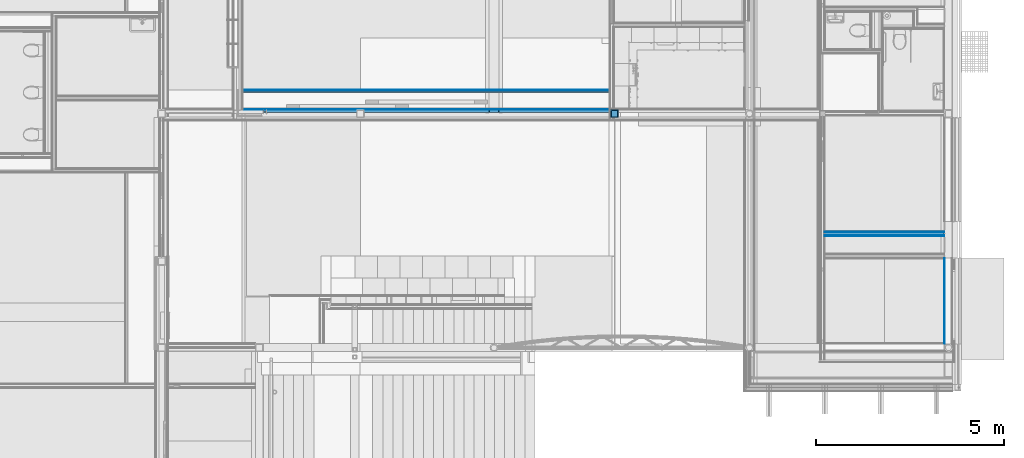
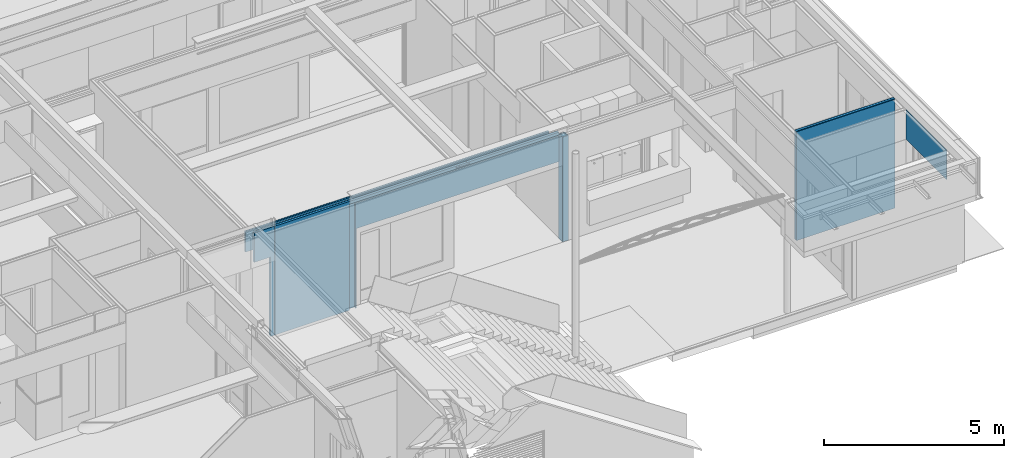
# One storey, part 67 of 165: 11 building element parts, 2 openings, 5 elements without a shape of their own.
"""IFC2X3 building model written with IfcOpenShell, lengths in millimetres."""

from ifc_helpers import new_model, entity, si_unit, converted_unit, derived_unit, money_unit, direction, frame, origin_with_axes, place, context, subcontext, project, spatial, faceted_brep, material, type_object, element, aggregate, save


model = new_model("IFC2X3")

# Units and contexts
model_context = context("Model", 3, precision=0.01, world=origin_with_axes(), true_north=direction((0.0, 1.0)))
body_context = subcontext(model_context, "Body", "Model", "MODEL_VIEW")
ifc_project = project(units=[si_unit("LENGTHUNIT", "METRE", prefix="MILLI"), si_unit("AREAUNIT", "SQUARE_METRE"), si_unit("VOLUMEUNIT", "CUBIC_METRE"), converted_unit("PLANEANGLEUNIT", "DEGREE", entity("IfcPlaneAngleMeasure", 0.0174532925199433), si_unit("PLANEANGLEUNIT", "RADIAN"), dimensions=[0, 0, 0, 0, 0, 0, 0]), money_unit("EUR"), converted_unit("TIMEUNIT", "Year", entity("IfcTimeMeasure", 31556926.0), si_unit("TIMEUNIT", "SECOND"), dimensions=[0, 0, 1, 0, 0, 0, 0]), si_unit("MASSUNIT", "GRAM", prefix="KILO"), si_unit("THERMODYNAMICTEMPERATUREUNIT", "DEGREE_CELSIUS"), si_unit("LUMINOUSINTENSITYUNIT", "LUMEN"), si_unit("ENERGYUNIT", "JOULE", prefix="MEGA"), derived_unit("THERMALCONDUCTANCEUNIT", [(si_unit("POWERUNIT", "WATT"), 1), (si_unit("LENGTHUNIT", "METRE"), -1), (si_unit("THERMODYNAMICTEMPERATUREUNIT", "KELVIN"), -1)]), derived_unit("SPECIFICHEATCAPACITYUNIT", [(si_unit("ENERGYUNIT", "JOULE"), 1), (si_unit("MASSUNIT", "GRAM", prefix="KILO"), -1), (si_unit("THERMODYNAMICTEMPERATUREUNIT", "KELVIN"), -1)]), derived_unit("MASSDENSITYUNIT", [(si_unit("MASSUNIT", "GRAM", prefix="KILO"), 1), (si_unit("VOLUMEUNIT", "CUBIC_METRE"), -1)])], contexts=[model_context])

# Site, building, storey
site_placement = place(None, origin_with_axes())
site = spatial("IfcSite", under=ifc_project, at=site_placement, Name="Site", CompositionType="ELEMENT")
building_placement = place(site_placement, origin_with_axes())
building = spatial("IfcBuilding", under=site, at=building_placement, Name="Naam gebouw", CompositionType="ELEMENT")
storey_placement = place(building_placement, origin_with_axes())
storey = spatial("IfcBuildingStorey", under=building, at=storey_placement, Name="Begane grond", CompositionType="ELEMENT", Elevation=0.0)

# Proxy, building element parts
building_element_proxy_type_1 = type_object("IfcBuildingElementProxyType", Name="22 Metal stud 125 gips 125", PredefinedType="NOTDEFINED")
proxy_1_placement = place(storey_placement, frame((26386.00000000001, 7674.998044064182, -100.0), z_axis=(0.0, 0.0, 1.0), x_axis=(1.0, 0.0, 0.0)))
proxy_1 = element("IfcBuildingElementProxy", 1, at=proxy_1_placement, inside=storey, type_object=building_element_proxy_type_1, Name="_Wand-x")
ifc_material_1 = material(Name="Gipsplaat")
building_element_part_1_placement = place(proxy_1_placement, origin_with_axes())
building_element_part_1 = element("IfcBuildingElementPart", 2, at=building_element_part_1_placement, material=ifc_material_1, Name="Gipsplaat", context=body_context, shape_type="Brep", body=[
    faceted_brep([(3299.99999999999, -124.9999999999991, 3695.0), (3299.99999999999, -112.4999999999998, 3695.0), (3299.99999999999, -112.4999999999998, 3700.0), (3299.99999999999, -124.9999999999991, 3700.0), (3214.999995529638, -112.4999999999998, 3695.0), (3214.999995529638, -124.9999999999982, 3695.0), (3214.999995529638, -112.4999999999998, 3683.0), (3299.99999999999, -112.4999999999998, 3683.0), (3299.99999999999, -112.4999999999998, 0.0), (125.0, -112.4999999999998, 0.0), (125.0, -112.4999999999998, 3700.0), (125.0, -125.0, 3700.0), (125.0, -125.0, 0.0), (3299.99999999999, -125.0, 0.0), (3299.99999999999, -124.9999999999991, 3683.0), (3214.999995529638, -124.9999999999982, 3683.0)], [[[0, 1, 2, 3]], [[4, 1, 0, 5]], [[6, 7, 8, 9, 10, 2, 1, 4]], [[3, 2, 10, 11]], [[5, 0, 3, 11, 12, 13, 14, 15]], [[6, 4, 5, 15]], [[14, 7, 6, 15]], [[7, 14, 13, 8]], [[8, 13, 12, 9]], [[12, 11, 10, 9]]]),
])
building_element_part_2_placement = place(proxy_1_placement, origin_with_axes())
building_element_part_2 = element("IfcBuildingElementPart", 3, at=building_element_part_2_placement, material=ifc_material_1, Name="Gipsplaat", context=body_context, shape_type="Brep", body=[
    faceted_brep([(3299.99999999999, -112.4999999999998, 3695.0), (3299.99999999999, -99.99999999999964, 3695.0), (3299.99999999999, -99.99999999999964, 3700.0), (3299.99999999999, -112.4999999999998, 3700.0), (3214.999995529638, -99.99999999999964, 3695.0), (3214.999995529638, -112.4999999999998, 3695.0), (3214.999995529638, -99.99999999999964, 3683.0), (3299.99999999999, -99.99999999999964, 3683.0), (3299.99999999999, -99.99999999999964, 0.0), (125.0, -99.99999999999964, 0.0), (125.0, -99.99999999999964, 3700.0), (125.0, -112.4999999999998, 3700.0), (125.0, -112.4999999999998, 0.0), (3299.99999999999, -112.4999999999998, 0.0), (3299.99999999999, -112.4999999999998, 3683.0), (3214.999995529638, -112.4999999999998, 3683.0)], [[[0, 1, 2, 3]], [[4, 1, 0, 5]], [[6, 7, 8, 9, 10, 2, 1, 4]], [[3, 2, 10, 11]], [[5, 0, 3, 11, 12, 13, 14, 15]], [[6, 4, 5, 15]], [[14, 7, 6, 15]], [[7, 14, 13, 8]], [[8, 13, 12, 9]], [[12, 11, 10, 9]]]),
])
ifc_material_2 = material(Name="ALG - LICHTE SCHEIDINGSWAND")
building_element_part_3_placement = place(proxy_1_placement, origin_with_axes())
building_element_part_3 = element("IfcBuildingElementPart", 4, at=building_element_part_3_placement, material=ifc_material_2, Name="ALG - LICHTE SCHEIDINGSWAND", context=body_context, shape_type="Brep", body=[
    faceted_brep([(3299.99999999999, -99.99999999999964, 3695.0), (3299.99999999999, -24.99999999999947, 3695.0), (3299.99999999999, -24.99999999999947, 3700.0), (3299.99999999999, -99.99999999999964, 3700.0), (3214.999995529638, -24.99999999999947, 3695.0), (3214.999995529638, -99.99999999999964, 3695.0), (3214.999995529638, -24.99999999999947, 3683.0), (3299.99999999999, -24.99999999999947, 3683.0), (3299.99999999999, -24.99999999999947, 0.0), (125.0, -25.00000000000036, 0.0), (125.0, -24.99999999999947, 3700.0), (125.0, -99.99999999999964, 3700.0), (125.0, -99.99999999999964, 0.0), (3299.99999999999, -99.99999999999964, 0.0), (3299.99999999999, -99.99999999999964, 3683.0), (3214.999995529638, -99.99999999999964, 3683.0)], [[[0, 1, 2, 3]], [[4, 1, 0, 5]], [[6, 7, 8, 9, 10, 2, 1, 4]], [[3, 2, 10, 11]], [[5, 0, 3, 11, 12, 13, 14, 15]], [[6, 4, 5, 15]], [[14, 7, 6, 15]], [[7, 14, 13, 8]], [[8, 13, 12, 9]], [[12, 11, 10, 9]]]),
])
building_element_part_4_placement = place(proxy_1_placement, origin_with_axes())
building_element_part_4 = element("IfcBuildingElementPart", 5, at=building_element_part_4_placement, material=ifc_material_1, Name="Gipsplaat", context=body_context, shape_type="Brep", body=[
    faceted_brep([(3299.99999999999, -24.99999999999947, 3695.0), (3299.99999999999, -12.49999999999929, 3695.0), (3299.99999999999, -12.49999999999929, 3700.0), (3299.99999999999, -24.99999999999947, 3700.0), (3214.999995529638, -12.50000000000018, 3695.0), (3214.999995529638, -24.99999999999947, 3695.0), (3214.999995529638, -12.50000000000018, 3683.0), (3299.99999999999, -12.49999999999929, 3683.0), (3299.99999999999, -12.50000000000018, 0.0), (125.0, -12.50000000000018, 0.0), (125.0, -12.50000000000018, 3700.0), (125.0, -24.99999999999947, 3700.0), (125.0, -25.00000000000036, 0.0), (3299.99999999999, -24.99999999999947, 0.0), (3299.99999999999, -24.99999999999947, 3683.0), (3214.999995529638, -24.99999999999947, 3683.0)], [[[0, 1, 2, 3]], [[4, 1, 0, 5]], [[6, 7, 8, 9, 10, 2, 1, 4]], [[3, 2, 10, 11]], [[5, 0, 3, 11, 12, 13, 14, 15]], [[6, 4, 5, 15]], [[14, 7, 6, 15]], [[7, 14, 13, 8]], [[8, 13, 12, 9]], [[12, 11, 10, 9]]]),
])
aggregate(proxy_1, [building_element_part_1, building_element_part_2, building_element_part_3, building_element_part_4])

# Proxy, openings, building element parts
building_element_proxy_type_2 = type_object("IfcBuildingElementProxyType", Name="22 Metal stud 325 325", PredefinedType="NOTDEFINED")
proxy_2_placement = place(storey_placement, frame((10875.00000000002, 10619.9988167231, -100.0), z_axis=(0.0, 0.0, 1.0), x_axis=(1.0, 0.0, 0.0)))
proxy_2 = element("IfcBuildingElementProxy", 6, at=proxy_2_placement, inside=storey, type_object=building_element_proxy_type_2, Name="_Wand-x")
opening_1_placement = place(proxy_2_placement, frame((5025.00189153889, 0.0, 100.0), z_axis=(0.0, 0.0, 1.0), x_axis=(1.0, 0.0, 0.0)))
element("IfcOpeningElement", 7, at=opening_1_placement, cuts=proxy_2, Name="_04.02", context=body_context, shape_type="Brep", body=[
    faceted_brep([(4875.0, 140.0000000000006, -100.0000000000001), (4875.0, 140.0000000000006, 2600.0), (4875.0, -0.9999999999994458, 2600.0), (4875.0, -0.9999999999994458, -100.0000000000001), (4875.0, 325.9999999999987, -100.0000000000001), (4875.0, 325.9999999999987, 2600.0), (-1625.0, 140.0000000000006, 2600.0), (-1625.0, -0.9999999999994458, 2600.0), (-1625.0, 325.9999999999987, 2600.0), (-1625.0, -0.9999999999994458, -100.0000000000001), (-1625.0, 140.0000000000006, -100.0000000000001), (-1625.0, 325.9999999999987, -100.0000000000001)], [[[0, 1, 2, 3]], [[1, 0, 4, 5]], [[6, 7, 2, 1, 5, 8]], [[7, 9, 3, 2]], [[0, 3, 9, 10, 11, 4]], [[5, 4, 11, 8]], [[6, 10, 9, 7]], [[10, 6, 8, 11]]]),
])
opening_2_placement = place(proxy_2_placement, frame((325.0000628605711, 0.0, 100.0), z_axis=(0.0, 0.0, 1.0), x_axis=(1.0, 0.0, 0.0)))
element("IfcOpeningElement", 8, at=opening_2_placement, cuts=proxy_2, Name="_B.04", context=body_context, shape_type="Brep", body=[
    faceted_brep([(314.9999999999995, 125.0, -100.0000000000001), (314.9999999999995, 125.0, 2600.0), (314.9999999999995, -0.9999999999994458, 2600.0), (314.9999999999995, -0.9999999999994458, -100.0000000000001), (314.9999999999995, 326.0000000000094, -100.0000000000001), (314.9999999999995, 326.0000000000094, 2600.0), (-459.9999999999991, 7.566550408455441e-05, 2600.0), (-459.9999999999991, -0.9999999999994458, 2600.0), (-189.169293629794, 326.0000000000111, 2600.0), (-459.9999999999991, -0.9999999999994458, -100.0000000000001), (-459.9999999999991, 7.566550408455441e-05, -100.0000000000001), (-189.1692936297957, 326.0000000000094, -100.0000000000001)], [[[0, 1, 2, 3]], [[1, 0, 4, 5]], [[6, 7, 2, 1, 5, 8]], [[7, 9, 3, 2]], [[0, 3, 9, 10, 11, 4]], [[5, 4, 11, 8]], [[10, 9, 7, 6]], [[8, 11, 10, 6]]]),
])
building_element_part_5_placement = place(proxy_2_placement, origin_with_axes())
building_element_part_5 = element("IfcBuildingElementPart", 9, at=building_element_part_5_placement, material=ifc_material_1, Name="Gipsplaat", context=body_context, shape_type="Brep", body=[
    faceted_brep([(640.0000628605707, 312.5, 2700.0), (122.5000000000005, 312.5, 2700.0), (122.5000000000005, 312.5, 3700.0), (6696.999424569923, 312.5, 3700.0), (6696.999424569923, 312.5, 3640.000029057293), (6689.999424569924, 312.5, 3640.000031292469), (6689.999424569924, 312.5, 3690.000029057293), (6599.999424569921, 312.5, 3690.000029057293), (6599.999424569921, 312.5, 3615.000029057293), (7049.999424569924, 312.5, 3615.000029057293), (7049.999424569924, 312.5, 3690.000029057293), (6959.999424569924, 312.5, 3690.000029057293), (6959.999424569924, 312.5, 3640.000031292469), (6952.999424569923, 312.5, 3640.000029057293), (6952.999424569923, 312.5, 3700.0), (9900.002045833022, 312.5, 3700.0), (9900.002045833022, 312.5, 3604.999999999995), (3165.001828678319, 312.5, 3604.999999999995), (3165.001828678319, 312.5, 3564.999999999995), (9900.002045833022, 312.5, 3564.999999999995), (9900.00189153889, 312.5, 2700.0), (3400.001891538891, 312.5, 2700.0), (3400.001891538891, 312.5, 0.0), (640.0000628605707, 312.5000000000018, 0.0), (640.0000628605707, 300.0000000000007, 2700.0), (122.5000000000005, 300.0000000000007, 2700.0), (122.5000000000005, 300.0000000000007, 3700.0), (6696.999424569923, 300.0000000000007, 3700.0), (6696.999424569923, 300.0000000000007, 3640.000029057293), (6689.999424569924, 300.0000000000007, 3640.000031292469), (6689.999424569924, 300.0000000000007, 3690.000029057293), (6599.999424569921, 300.0000000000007, 3690.000029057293), (6599.999424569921, 300.0000000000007, 3615.000029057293), (7049.999424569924, 300.0000000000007, 3615.000029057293), (7049.999424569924, 300.0000000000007, 3690.000029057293), (6959.999424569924, 300.0000000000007, 3690.000029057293), (6959.999424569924, 300.0000000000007, 3640.000031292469), (6952.999424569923, 300.0000000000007, 3640.000029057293), (6952.999424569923, 300.0000000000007, 3700.0), (9900.002045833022, 300.0000000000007, 3700.0), (9900.002045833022, 300.0000000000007, 3604.999999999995), (3165.001828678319, 300.0000000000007, 3604.999999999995), (3165.001828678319, 300.0000000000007, 3564.999999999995), (9900.002045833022, 300.0000000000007, 3564.999999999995), (9900.00189153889, 300.0000000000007, 2700.0), (3400.001891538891, 300.0000000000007, 2700.0), (3400.001891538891, 300.0000000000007, 0.0), (640.0000628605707, 300.0000000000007, 0.0)], [[[0, 1, 2, 3, 4, 5, 6, 7, 8, 9, 10, 11, 12, 13, 14, 15, 16, 17, 18, 19, 20, 21, 22, 23]], [[0, 24, 25, 1]], [[25, 26, 2, 1]], [[27, 3, 2, 26]], [[4, 3, 27, 28]], [[5, 4, 28, 29]], [[5, 29, 30, 6]], [[7, 6, 30, 31]], [[32, 8, 7, 31]], [[9, 8, 32, 33]], [[10, 9, 33, 34]], [[11, 10, 34, 35]], [[36, 12, 11, 35]], [[13, 12, 36, 37]], [[38, 14, 13, 37]], [[14, 38, 39, 15]], [[40, 16, 15, 39]], [[17, 16, 40, 41]], [[18, 17, 41, 42]], [[43, 19, 18, 42]], [[43, 44, 20, 19]], [[45, 21, 20, 44]], [[46, 22, 21, 45]], [[47, 23, 22, 46]], [[0, 23, 47, 24]], [[24, 47, 46, 45, 44, 43, 42, 41, 40, 39, 38, 37, 36, 35, 34, 33, 32, 31, 30, 29, 28, 27, 26, 25]]]),
    faceted_brep([(6604.999422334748, 300.0000000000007, 3645.000029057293), (6684.999426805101, 300.0000000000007, 3645.000029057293), (6684.999426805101, 300.0000000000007, 3685.000031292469), (6604.999422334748, 300.0000000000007, 3685.000031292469), (6604.999422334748, 312.5, 3645.000029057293), (6684.999426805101, 312.5, 3645.000029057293), (6684.999426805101, 312.5, 3685.000031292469), (6604.999422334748, 312.5, 3685.000031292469)], [[[0, 1, 2, 3]], [[4, 5, 1, 0]], [[5, 6, 2, 1]], [[6, 7, 3, 2]], [[7, 4, 0, 3]], [[4, 7, 6, 5]]]),
    faceted_brep([(6964.999422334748, 300.0000000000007, 3645.000029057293), (7044.9994268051, 300.0000000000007, 3645.000029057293), (7044.9994268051, 300.0000000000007, 3685.000031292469), (6964.999422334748, 300.0000000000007, 3685.000031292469), (6964.999422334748, 312.5, 3645.000029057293), (7044.9994268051, 312.5, 3645.000029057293), (7044.9994268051, 312.5, 3685.000031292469), (6964.999422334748, 312.5, 3685.000031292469)], [[[0, 1, 2, 3]], [[4, 5, 1, 0]], [[5, 6, 2, 1]], [[6, 7, 3, 2]], [[7, 4, 0, 3]], [[4, 7, 6, 5]]]),
    faceted_brep([(6704.999424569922, 312.5, 3700.0), (6704.999424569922, 300.0000000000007, 3700.0), (6944.999424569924, 300.0000000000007, 3700.0), (6944.999424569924, 312.5, 3700.0), (6704.999424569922, 312.5, 3640.000029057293), (6704.999424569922, 300.0000000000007, 3640.000029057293), (6944.999424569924, 300.0000000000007, 3640.000029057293), (6944.999424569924, 312.5, 3640.000029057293)], [[[0, 1, 2, 3]], [[1, 0, 4, 5]], [[6, 2, 1, 5]], [[7, 3, 2, 6]], [[4, 0, 3, 7]], [[4, 7, 6, 5]]]),
])
building_element_part_6_placement = place(proxy_2_placement, origin_with_axes())
building_element_part_6 = element("IfcBuildingElementPart", 10, at=building_element_part_6_placement, material=ifc_material_2, Name="ALG - LICHTE SCHEIDINGSWAND", context=body_context, shape_type="Brep", body=[
    faceted_brep([(640.0000628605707, 300.0000000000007, 2700.0), (109.9999999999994, 300.0000000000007, 2700.0), (109.9999999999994, 300.0000000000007, 3700.0), (6696.999424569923, 300.0000000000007, 3700.0), (6696.999424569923, 300.0000000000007, 3640.000029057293), (6689.999424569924, 300.0000000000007, 3640.000031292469), (6689.999424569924, 300.0000000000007, 3690.000029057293), (6599.999424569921, 300.0000000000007, 3690.000029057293), (6599.999424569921, 300.0000000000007, 3615.000029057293), (7049.999424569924, 300.0000000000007, 3615.000029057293), (7049.999424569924, 300.0000000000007, 3690.000029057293), (6959.999424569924, 300.0000000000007, 3690.000029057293), (6959.999424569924, 300.0000000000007, 3640.000031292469), (6952.999424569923, 300.0000000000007, 3640.000029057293), (6952.999424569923, 300.0000000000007, 3700.0), (9900.002045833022, 300.0000000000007, 3700.0), (9900.002045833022, 300.0000000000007, 3604.999999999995), (3165.001828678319, 300.0000000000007, 3604.999999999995), (3165.001828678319, 300.0000000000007, 3564.999999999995), (9900.002045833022, 300.0000000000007, 3564.999999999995), (9900.00189153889, 300.0000000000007, 2700.0), (3400.001891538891, 300.0000000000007, 2700.0), (3400.001891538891, 300.0000000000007, 0.0), (640.0000628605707, 300.0000000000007, 0.0), (640.0000628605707, 224.9999999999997, 2700.0), (109.9999999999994, 224.9999999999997, 2700.0), (109.9999999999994, 224.9999999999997, 3700.0), (674.9999999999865, 224.9999999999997, 3700.0), (674.9999999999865, 290.001293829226, 3700.0), (682.9999999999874, 290.001293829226, 3700.0), (682.9999999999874, 242.5012938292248, 3700.0), (762.9999999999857, 242.5012938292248, 3700.0), (762.9999999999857, 290.001293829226, 3700.0), (770.9999999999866, 290.001293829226, 3700.0), (770.9999999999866, 224.9999999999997, 3700.0), (6696.999424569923, 225.0000000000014, 3700.0), (6696.999424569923, 225.0000000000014, 3640.000029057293), (6689.999424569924, 225.0000000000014, 3640.000031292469), (6689.999424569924, 225.0000000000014, 3690.000029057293), (6599.999424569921, 225.0000000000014, 3690.000029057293), (6599.999424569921, 225.0000000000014, 3615.000029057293), (7049.999424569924, 225.0000000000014, 3615.000029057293), (7049.999424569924, 225.0000000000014, 3690.000029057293), (6959.999424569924, 225.0000000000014, 3690.000029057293), (6959.999424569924, 225.0000000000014, 3640.000031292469), (6952.999424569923, 225.0000000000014, 3640.000029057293), (6952.999424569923, 225.0000000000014, 3700.0), (9900.002045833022, 225.0000000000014, 3700.0), (9900.002045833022, 225.0000000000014, 3604.999999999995), (3165.001828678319, 225.0000000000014, 3604.999999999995), (3165.001828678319, 290.0012938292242, 3564.999999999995), (3165.001828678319, 224.9999999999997, 0.0), (3165.001828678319, 290.0012938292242, 0.0), (9900.002045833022, 225.0000000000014, 3564.999999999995), (3365.001828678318, 290.0012938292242, 3564.999999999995), (3365.001828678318, 225.0000000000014, 3564.999999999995), (9900.00189153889, 225.0000000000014, 2700.0), (3400.001891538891, 225.0000000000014, 2700.0), (3400.001891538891, 224.9999999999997, 0.0), (640.0000628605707, 225.0000253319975, 0.0), (3365.001828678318, 224.9999999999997, 0.0), (3365.001828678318, 290.0012938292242, 0.0), (770.9999999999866, 224.9999999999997, 0.0), (770.9999999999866, 290.001293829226, 0.0), (762.9999999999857, 290.001293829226, 0.0), (762.9999999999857, 242.5012938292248, 0.0), (682.9999999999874, 242.5012938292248, 0.0), (682.9999999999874, 290.001293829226, 0.0), (674.9999999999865, 290.001293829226, 0.0), (674.9999999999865, 224.9999999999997, 0.0)], [[[0, 1, 2, 3, 4, 5, 6, 7, 8, 9, 10, 11, 12, 13, 14, 15, 16, 17, 18, 19, 20, 21, 22, 23]], [[0, 24, 25, 1]], [[25, 26, 2, 1]], [[27, 28, 29, 30, 31, 32, 33, 34, 35, 3, 2, 26]], [[36, 4, 3, 35]], [[37, 5, 4, 36]], [[6, 5, 37, 38]], [[39, 7, 6, 38]], [[39, 40, 8, 7]], [[41, 9, 8, 40]], [[42, 10, 9, 41]], [[43, 11, 10, 42]], [[43, 44, 12, 11]], [[45, 13, 12, 44]], [[45, 46, 14, 13]], [[15, 14, 46, 47]], [[47, 48, 16, 15]], [[49, 17, 16, 48]], [[50, 18, 17, 49, 51, 52]], [[53, 19, 18, 50, 54, 55]], [[53, 56, 20, 19]], [[57, 21, 20, 56]], [[58, 22, 21, 57]], [[59, 23, 22, 58, 60, 61, 52, 51, 62, 63, 64, 65, 66, 67, 68, 69]], [[0, 23, 59, 24]], [[24, 59, 69, 27, 26, 25]], [[28, 27, 69, 68]], [[29, 28, 68, 67]], [[30, 29, 67, 66]], [[31, 30, 66, 65]], [[32, 31, 65, 64]], [[33, 32, 64, 63]], [[34, 33, 63, 62]], [[36, 35, 34, 62, 51, 49, 48, 47, 46, 45, 44, 43, 42, 41, 40, 39, 38, 37]], [[54, 50, 52, 61]], [[55, 54, 61, 60]], [[58, 57, 56, 53, 55, 60]]]),
    faceted_brep([(682.9999999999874, 237.5012938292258, 3700.0), (682.9999999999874, 224.9999999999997, 3700.0), (762.9999999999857, 224.9999999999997, 3700.0), (762.9999999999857, 237.5012938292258, 3700.0), (682.9999999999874, 237.5012938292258, 0.0), (682.9999999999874, 224.9999999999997, 0.0), (762.9999999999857, 224.9999999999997, 0.0), (762.9999999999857, 237.5012938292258, 0.0)], [[[0, 1, 2, 3]], [[1, 0, 4, 5]], [[6, 2, 1, 5]], [[3, 2, 6, 7]], [[0, 3, 7, 4]], [[7, 6, 5, 4]]]),
    faceted_brep([(6604.999422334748, 225.0000000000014, 3645.000029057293), (6684.999426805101, 225.0000000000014, 3645.000029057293), (6684.999426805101, 225.0000000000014, 3685.000031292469), (6604.999422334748, 225.0000000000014, 3685.000031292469), (6604.999422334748, 300.0000000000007, 3645.000029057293), (6684.999426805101, 300.0000000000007, 3645.000029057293), (6684.999426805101, 300.0000000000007, 3685.000031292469), (6604.999422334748, 300.0000000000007, 3685.000031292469)], [[[0, 1, 2, 3]], [[4, 5, 1, 0]], [[5, 6, 2, 1]], [[6, 7, 3, 2]], [[7, 4, 0, 3]], [[4, 7, 6, 5]]]),
    faceted_brep([(6964.999422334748, 225.0000000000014, 3645.000029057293), (7044.9994268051, 225.0000000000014, 3645.000029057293), (7044.9994268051, 225.0000000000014, 3685.000031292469), (6964.999422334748, 225.0000000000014, 3685.000031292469), (6964.999422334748, 300.0000000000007, 3645.000029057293), (7044.9994268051, 300.0000000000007, 3645.000029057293), (7044.9994268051, 300.0000000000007, 3685.000031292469), (6964.999422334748, 300.0000000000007, 3685.000031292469)], [[[0, 1, 2, 3]], [[4, 5, 1, 0]], [[5, 6, 2, 1]], [[6, 7, 3, 2]], [[7, 4, 0, 3]], [[4, 7, 6, 5]]]),
    faceted_brep([(6704.999424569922, 300.0000000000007, 3700.0), (6704.999424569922, 225.0000000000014, 3700.0), (6944.999424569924, 225.0000000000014, 3700.0), (6944.999424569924, 300.0000000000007, 3700.0), (6704.999424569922, 300.0000000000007, 3640.000029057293), (6704.999424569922, 225.0000000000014, 3640.000029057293), (6944.999424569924, 225.0000000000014, 3640.000029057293), (6944.999424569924, 300.0000000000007, 3640.000029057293)], [[[0, 1, 2, 3]], [[1, 0, 4, 5]], [[6, 2, 1, 5]], [[7, 3, 2, 6]], [[4, 0, 3, 7]], [[4, 7, 6, 5]]]),
])
aggregate(proxy_2, [building_element_part_5, building_element_part_6])

# Column, building element parts
column_type = type_object("IfcColumnType", Name="200X200X10 200 x 200", PredefinedType="COLUMN")
column_placement = place(storey_placement, frame((20909.99793409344, 10810.00011055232, -70.00000000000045), z_axis=(0.0, 0.0, 1.0), x_axis=(1.0, 0.0, 0.0)))
column = element("IfcColumn", 11, at=column_placement, inside=storey, type_object=column_type, Name="28_Kolom-x", ObjectType="COLUMN")
ifc_material_3 = material(Name="Beton gewapend C")
building_element_part_7_placement = place(column_placement, origin_with_axes())
building_element_part_7 = element("IfcBuildingElementPart", 12, at=building_element_part_7_placement, material=ifc_material_3, Name="Beton gewapend C", context=body_context, shape_type="Brep", body=[
    faceted_brep([(-89.99999999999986, 89.99999999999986, 3534.999999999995), (89.99999999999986, 89.99999999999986, 3534.999999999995), (89.99999999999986, 89.99999999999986, 0.0), (-89.99999999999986, 89.99999999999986, 0.0), (89.99999999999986, -89.99999999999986, 3534.999999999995), (-89.99999999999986, -89.99999999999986, 3534.999999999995), (89.99999999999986, -89.99999999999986, 0.0), (-89.99999999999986, -89.99999999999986, 0.0)], [[[0, 1, 2, 3]], [[4, 1, 0, 5]], [[1, 4, 6, 2]], [[6, 7, 3, 2]], [[5, 0, 3, 7]], [[4, 5, 7, 6]]]),
])
ifc_material_4 = material(Name="Metaal - Staal C")
building_element_part_8_placement = place(column_placement, origin_with_axes())
building_element_part_8 = element("IfcBuildingElementPart", 13, at=building_element_part_8_placement, material=ifc_material_4, Name="Metaal - Staal C", context=body_context, shape_type="Brep", body=[
    faceted_brep([(-100.0000000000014, -99.99999999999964, 0.0), (100.0000000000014, -99.99999999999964, 0.0), (100.0000000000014, -99.99999999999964, 3564.999999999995), (-100.0000000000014, -99.99999999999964, 3564.999999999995), (-100.0000000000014, 99.99999999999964, 0.0), (100.0000000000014, 99.99999999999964, 0.0), (-89.99999999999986, -89.99999999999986, 0.0), (89.99999999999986, -89.99999999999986, 0.0), (89.99999999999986, 89.99999999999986, 0.0), (-89.99999999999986, 89.99999999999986, 0.0), (100.0000000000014, 99.99999999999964, 3564.999999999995), (-100.0000000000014, 99.99999999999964, 3564.999999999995), (-89.99999999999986, -89.99999999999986, 3564.999999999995), (-89.99999999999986, 89.99999999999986, 3564.999999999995), (89.99999999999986, 89.99999999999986, 3564.999999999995), (89.99999999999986, -89.99999999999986, 3564.999999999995)], [[[0, 1, 2, 3]], [[0, 4, 5, 1], [6, 7, 8, 9]], [[1, 5, 10, 2]], [[3, 2, 10, 11], [12, 13, 14, 15]], [[4, 0, 3, 11]], [[5, 4, 11, 10]], [[7, 6, 12, 15]], [[8, 7, 15, 14]], [[9, 8, 14, 13]], [[6, 9, 13, 12]]]),
])
aggregate(column, [building_element_part_7, building_element_part_8])

# Proxy, building element parts
building_element_proxy_type_3 = type_object("IfcBuildingElementProxyType", Name="22 Metal stud 62.5 plafond 63", PredefinedType="NOTDEFINED")
proxy_3_placement = place(storey_placement, frame((20775.0016743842, 11444.9988024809, 2600.0), z_axis=(0.0, 0.0, 1.0), x_axis=(-1.0, 0.0, 0.0)))
proxy_3 = element("IfcBuildingElementProxy", 14, at=proxy_3_placement, inside=storey, type_object=building_element_proxy_type_3, Name="_Wand-x")
building_element_part_9_placement = place(proxy_3_placement, origin_with_axes())
building_element_part_9 = element("IfcBuildingElementPart", 15, at=building_element_part_9_placement, material=ifc_material_2, Name="ALG - LICHTE SCHEIDINGSWAND", context=body_context, shape_type="Brep", body=[
    faceted_brep([(3.201072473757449e-05, 62.50000000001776, 12.00000000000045), (5.846709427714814e-05, 12.50000000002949, 12.00000000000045), (0.0, 12.49999999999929, 700.0000000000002), (0.0, 62.5, 700.0000000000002), (9765.001674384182, 12.50000000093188, 12.00000000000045), (9765.001674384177, 62.50000000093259, 12.00000000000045), (9765.001674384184, 12.50000000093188, 700.0000000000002), (9765.001674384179, 62.50000000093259, 700.0000000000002)], [[[0, 1, 2, 3]], [[4, 1, 0, 5]], [[1, 4, 6, 2]], [[2, 6, 7, 3]], [[5, 0, 3, 7]], [[4, 5, 7, 6]]]),
])
building_element_part_10_placement = place(proxy_3_placement, origin_with_axes())
building_element_part_10 = element("IfcBuildingElementPart", 16, at=building_element_part_10_placement, material=ifc_material_1, Name="Gipsplaat", context=body_context, shape_type="Brep", body=[
    faceted_brep([(5.846709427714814e-05, 12.50000000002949, 12.00000000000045), (6.508118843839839e-05, -9.325873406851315e-10, 12.00000000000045), (0.0, 0.0, 700.0000000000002), (0.0, 12.49999999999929, 700.0000000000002), (9765.001674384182, 0.0, 12.00000000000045), (9765.001674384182, 12.50000000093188, 12.00000000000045), (9765.001674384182, 9.325873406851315e-10, 700.0000000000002), (9765.001674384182, 12.50000000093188, 700.0000000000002)], [[[0, 1, 2, 3]], [[4, 1, 0, 5]], [[1, 4, 6, 2]], [[2, 6, 7, 3]], [[5, 0, 3, 7]], [[4, 5, 7, 6]]]),
])
aggregate(proxy_3, [building_element_part_9, building_element_part_10])

# Beam, building element part
beam_type = type_object("IfcBeamType", Name="31 HSB boven kozijnen 214 x 1000", PredefinedType="BEAM")
beam_placement = place(storey_placement, frame((29686.0, 6959.997857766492, 2600.000000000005), z_axis=(0.0, 0.0, 1.0), x_axis=(-1.0, 0.0, 0.0)))
beam = element("IfcBeam", 17, at=beam_placement, inside=storey, type_object=beam_type, Name="28_Balk-x", ObjectType="BEAM")
building_element_part_11_placement = place(beam_placement, origin_with_axes())
building_element_part_11 = element("IfcBuildingElementPart", 18, at=building_element_part_11_placement, material=ifc_material_1, Name="Gipsplaat", context=body_context, shape_type="Brep", body=[
    faceted_brep([(-11.99999661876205, 2277.997854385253, 0.0), (9.341707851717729e-06, 2265.997848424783, 0.0), (9.341711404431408e-06, 0.0, 0.0), (-11.99999661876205, 0.0, 0.0), (-11.99999661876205, 2277.997854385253, 999.9999999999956), (9.341707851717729e-06, 2265.997848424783, 999.9999999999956), (9.341711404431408e-06, 0.0, 999.9999999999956), (-11.9999966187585, 0.0, 999.9999999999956)], [[[0, 1, 2, 3]], [[0, 4, 5, 1]], [[1, 5, 6, 2]], [[3, 2, 6, 7]], [[4, 0, 3, 7]], [[5, 4, 7, 6]]]),
])
aggregate(beam, [building_element_part_11])

save(model, "model.ifc")
